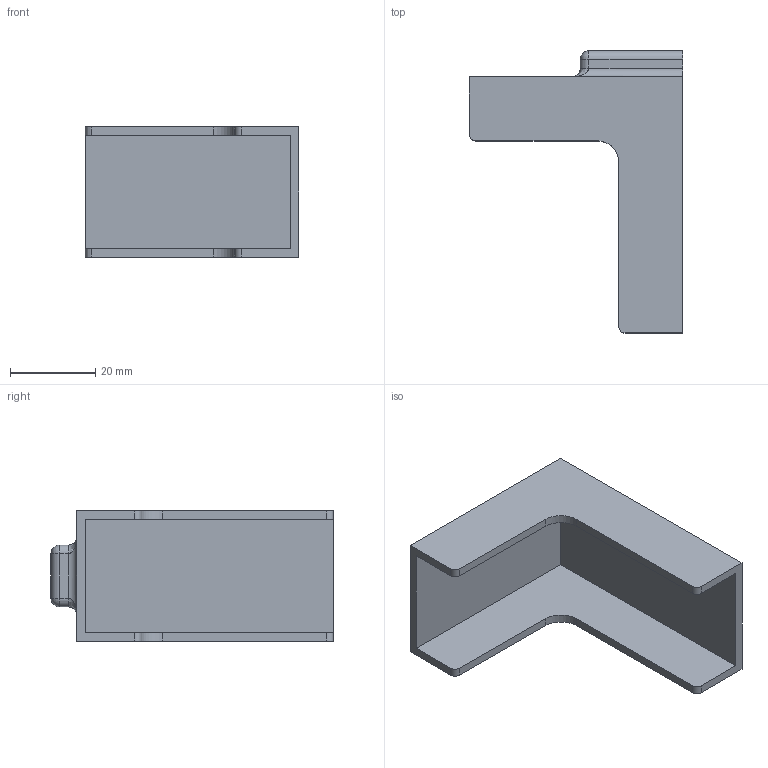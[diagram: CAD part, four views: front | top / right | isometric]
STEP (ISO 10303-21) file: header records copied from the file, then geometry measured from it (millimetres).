
FILE_DESCRIPTION (( 'STEP AP214' ), '1' );
FILE_NAME ('Bildschirmklemme.STEP', '2019-01-23T12:24:49', ( '' ), ( '' ), 'SwSTEP 2.0', 'SolidWorks 2019', '' );
FILE_SCHEMA (( 'AUTOMOTIVE_DESIGN' ));
Length unit declared in the file: millimetre
Products named in the file (1): Bildschirmklemme
Bounding box: 50 x 66.1 x 30.5 mm (x, y, z)
Volume: 12482.4 mm3; surface area: 12934.1 mm2
Topology: 1 solids, 1 shells, 47 faces, 123 edges, 74 vertices
Faces by surface type: plane 27, cylinder 16, sphere 2, bspline 2
Entity records: 1513 total; most frequent: CARTESIAN_POINT 347, ORIENTED_EDGE 238, DIRECTION 235, EDGE_CURVE 119, LINE 87, VECTOR 87, VERTEX_POINT 74, AXIS2_PLACEMENT_3D 74
